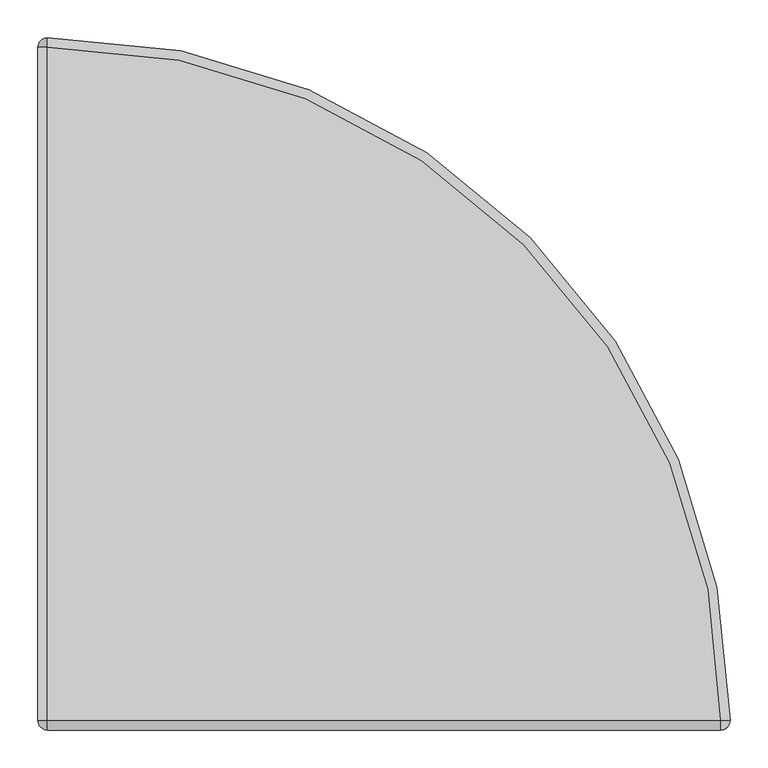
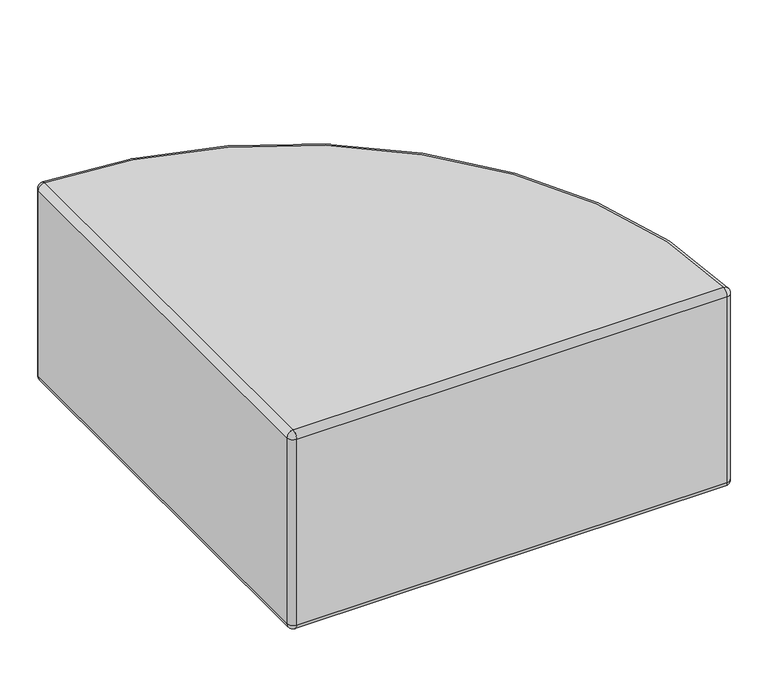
"""IFC4 building model written with IfcOpenShell, lengths in millimetres: furniture geometry, KFI Studios - Conversa - Corner Seat : KFI Studios - Conversa - Corner Seat."""

from ifc_helpers import new_model, si_unit, point, frame, origin, place, context, project, spatial, polyline, circle_curve, ellipse_curve, trimmed, source, transform, mapped, element, save
from ifc_brep_helpers import plane_surface, cylinder_surface, revolved_surface, advanced_brep


def furniture_e2d3b3b4(model_context):
    return source(origin(), model_context, "Body", "AdvancedBrep", [
        advanced_brep(
        [(-356.8604105, 365.125, 25.4), (-365.125, 365.125, 25.4), (-373.3895895, 365.125, 25.4), (-356.8604105, 365.125, 14.2843611), (-373.3895895, 365.125, 14.2843611), (-358.4623646, 365.125, 14.2843611), (-371.7876354, 365.125, 14.2843611), (-358.4623646, 365.125, 12.7064551), (-371.7876354, 365.125, 12.7064551), (-356.8609329, 365.125, 12.7064551), (-373.3890671, 365.125, 12.7064551), (-347.6758785, 365.125, 3.1950529), (-382.5741215, 365.125, 3.1950529), (-347.6758785, 365.125, 0.0), (-382.5741215, 365.125, 0.0), (-365.125, 365.125, 0.0)],
        [
            (0, 1),
            (1, 2),
            (2, 0, circle_curve(frame((-365.125, 365.125, 25.4), z_axis=(0.0, 0.0, 1.0), x_axis=(-1.0, 0.0, 0.0)), 8.2645895)),
            (0, 2, circle_curve(frame((-365.125, 365.125, 25.4), z_axis=(0.0, 0.0, 1.0), x_axis=(-1.0, 0.0, 0.0)), 8.2645895)),
            (3, 0),
            (2, 4),
            (4, 3, circle_curve(frame((-365.125, 365.125, 14.2843611), z_axis=(0.0, 0.0, 1.0), x_axis=(-1.0, 0.0, 0.0)), 8.2645895)),
            (3, 4, circle_curve(frame((-365.125, 365.125, 14.2843611), z_axis=(0.0, 0.0, 1.0), x_axis=(-1.0, 0.0, 0.0)), 8.2645895)),
            (5, 3),
            (4, 6),
            (6, 5, circle_curve(frame((-365.125, 365.125, 14.2843611), z_axis=(0.0, 0.0, 1.0), x_axis=(-1.0, 0.0, 0.0)), 6.6626354)),
            (5, 6, circle_curve(frame((-365.125, 365.125, 14.2843611), z_axis=(0.0, 0.0, 1.0), x_axis=(-1.0, 0.0, 0.0)), 6.6626354)),
            (7, 5),
            (6, 8),
            (8, 7, circle_curve(frame((-365.125, 365.125, 12.7064551), z_axis=(0.0, 0.0, 1.0), x_axis=(-1.0, 0.0, 0.0)), 6.6626354)),
            (7, 8, circle_curve(frame((-365.125, 365.125, 12.7064551), z_axis=(0.0, 0.0, 1.0), x_axis=(-1.0, 0.0, 0.0)), 6.6626354)),
            (9, 7),
            (8, 10),
            (10, 9, circle_curve(frame((-365.125, 365.125, 12.7064551), z_axis=(0.0, 0.0, 1.0), x_axis=(-1.0, 0.0, 0.0)), 8.2640671)),
            (9, 10, circle_curve(frame((-365.125, 365.125, 12.7064551), z_axis=(0.0, 0.0, 1.0), x_axis=(-1.0, 0.0, 0.0)), 8.2640671)),
            (11, 9),
            (10, 12),
            (12, 11, circle_curve(frame((-365.125, 365.125, 3.1950529), z_axis=(0.0, 0.0, 1.0), x_axis=(-1.0, 0.0, 0.0)), 17.4491215)),
            (11, 12, circle_curve(frame((-365.125, 365.125, 3.1950529), z_axis=(0.0, 0.0, 1.0), x_axis=(-1.0, 0.0, 0.0)), 17.4491215)),
            (13, 11),
            (12, 14),
            (14, 13, circle_curve(frame((-365.125, 365.125, 0.0), z_axis=(0.0, 0.0, 1.0), x_axis=(-1.0, 0.0, 0.0)), 17.4491215)),
            (13, 14, circle_curve(frame((-365.125, 365.125, 0.0), z_axis=(0.0, 0.0, 1.0), x_axis=(-1.0, 0.0, 0.0)), 17.4491215)),
            (15, 13),
            (14, 15),
        ],
        [
            plane_surface(frame((-365.125, 365.125, 25.4), z_axis=(0.0, 0.0, 1.0), x_axis=(-1.0, 0.0, 0.0))),
            cylinder_surface(frame((-365.125, 365.125, 33.820929), z_axis=(0.0, 0.0, -1.0), x_axis=(-1.0, 0.0, 0.0)), 8.2645895),
            plane_surface(frame((-365.125, 365.125, 14.2843611), z_axis=(0.0, 0.0, -1.0), x_axis=(-1.0, 0.0, 0.0))),
            cylinder_surface(frame((-365.125, 365.125, 33.820929), z_axis=(0.0, 0.0, -1.0), x_axis=(-1.0, 0.0, 0.0)), 6.6626354),
            plane_surface(frame((-365.125, 365.125, 12.7064551), z_axis=(0.0, 0.0, 1.0), x_axis=(-1.0, 0.0, 0.0))),
            revolved_surface(polyline([(-373.3890671, 365.125, 12.7064551), (-382.5741215, 365.125, 3.1950529)]), (-365.125, 365.125, 33.820929), (0.0, 0.0, -1.0)),
            cylinder_surface(frame((-365.125, 365.125, 33.820929), z_axis=(0.0, 0.0, -1.0), x_axis=(-1.0, 0.0, 0.0)), 17.4491215),
            plane_surface(frame((-365.125, 365.125, 0.0), z_axis=(0.0, 0.0, -1.0), x_axis=(-1.0, 0.0, 0.0))),
        ],
        [
            (0, [[1, 2, 3]]),
            (0, [[-2, -1, 4]]),
            (1, [[5, -3, 6, 7]]),
            (1, [[-6, -4, -5, 8]]),
            (2, [[9, -7, 10, 11]]),
            (2, [[-10, -8, -9, 12]]),
            (3, [[13, -11, 14, 15]]),
            (3, [[-14, -12, -13, 16]]),
            (4, [[17, -15, 18, 19]]),
            (4, [[-18, -16, -17, 20]]),
            (5, [[21, -19, 22, 23]]),
            (5, [[-22, -20, -21, 24]]),
            (6, [[25, -23, 26, 27]]),
            (6, [[-26, -24, -25, 28]]),
            (7, [[29, -27, 30]]),
            (7, [[-30, -28, -29]]),
        ],
    ),
        advanced_brep(
        [(356.8604105, -365.125, 25.4), (373.3895895, -365.125, 25.4), (365.125, -365.125, 25.4), (356.8604105, -365.125, 14.2843611), (373.3895895, -365.125, 14.2843611), (358.4623646, -365.125, 14.2843611), (371.7876354, -365.125, 14.2843611), (358.4623646, -365.125, 12.7064551), (371.7876354, -365.125, 12.7064551), (356.8609329, -365.125, 12.7064551), (373.3890671, -365.125, 12.7064551), (347.6758785, -365.125, 3.1950529), (382.5741215, -365.125, 3.1950529), (347.6758785, -365.125, 0.0), (382.5741215, -365.125, 0.0), (365.125, -365.125, 0.0)],
        [
            (0, 1, circle_curve(frame((365.125, -365.125, 25.4), z_axis=(0.0, 0.0, 1.0), x_axis=(1.0, 0.0, 0.0)), 8.2645895)),
            (1, 2),
            (2, 0),
            (1, 0, circle_curve(frame((365.125, -365.125, 25.4), z_axis=(0.0, 0.0, 1.0), x_axis=(1.0, 0.0, 0.0)), 8.2645895)),
            (3, 4, circle_curve(frame((365.125, -365.125, 14.2843611), z_axis=(0.0, 0.0, 1.0), x_axis=(1.0, 0.0, 0.0)), 8.2645895)),
            (4, 1),
            (0, 3),
            (4, 3, circle_curve(frame((365.125, -365.125, 14.2843611), z_axis=(0.0, 0.0, 1.0), x_axis=(1.0, 0.0, 0.0)), 8.2645895)),
            (5, 6, circle_curve(frame((365.125, -365.125, 14.2843611), z_axis=(0.0, 0.0, 1.0), x_axis=(1.0, 0.0, 0.0)), 6.6626354)),
            (6, 4),
            (3, 5),
            (6, 5, circle_curve(frame((365.125, -365.125, 14.2843611), z_axis=(0.0, 0.0, 1.0), x_axis=(1.0, 0.0, 0.0)), 6.6626354)),
            (7, 8, circle_curve(frame((365.125, -365.125, 12.7064551), z_axis=(0.0, 0.0, 1.0), x_axis=(1.0, 0.0, 0.0)), 6.6626354)),
            (8, 6),
            (5, 7),
            (8, 7, circle_curve(frame((365.125, -365.125, 12.7064551), z_axis=(0.0, 0.0, 1.0), x_axis=(1.0, 0.0, 0.0)), 6.6626354)),
            (9, 10, circle_curve(frame((365.125, -365.125, 12.7064551), z_axis=(0.0, 0.0, 1.0), x_axis=(1.0, 0.0, 0.0)), 8.2640671)),
            (10, 8),
            (7, 9),
            (10, 9, circle_curve(frame((365.125, -365.125, 12.7064551), z_axis=(0.0, 0.0, 1.0), x_axis=(1.0, 0.0, 0.0)), 8.2640671)),
            (11, 12, circle_curve(frame((365.125, -365.125, 3.1950529), z_axis=(0.0, 0.0, 1.0), x_axis=(1.0, 0.0, 0.0)), 17.4491215)),
            (12, 10),
            (9, 11),
            (12, 11, circle_curve(frame((365.125, -365.125, 3.1950529), z_axis=(0.0, 0.0, 1.0), x_axis=(1.0, 0.0, 0.0)), 17.4491215)),
            (13, 14, circle_curve(frame((365.125, -365.125, 0.0), z_axis=(0.0, 0.0, 1.0), x_axis=(1.0, 0.0, 0.0)), 17.4491215)),
            (14, 12),
            (11, 13),
            (14, 13, circle_curve(frame((365.125, -365.125, 0.0), z_axis=(0.0, 0.0, 1.0), x_axis=(1.0, 0.0, 0.0)), 17.4491215)),
            (15, 14),
            (13, 15),
        ],
        [
            plane_surface(frame((365.125, -365.125, 25.4), z_axis=(0.0, 0.0, 1.0), x_axis=(1.0, 0.0, 0.0))),
            cylinder_surface(frame((365.125, -365.125, 33.820929), z_axis=(0.0, 0.0, -1.0), x_axis=(1.0, 0.0, 0.0)), 8.2645895),
            plane_surface(frame((365.125, -365.125, 14.2843611), z_axis=(0.0, 0.0, -1.0), x_axis=(1.0, 0.0, 0.0))),
            cylinder_surface(frame((365.125, -365.125, 33.820929), z_axis=(0.0, 0.0, -1.0), x_axis=(1.0, 0.0, 0.0)), 6.6626354),
            plane_surface(frame((365.125, -365.125, 12.7064551), z_axis=(0.0, 0.0, 1.0), x_axis=(1.0, 0.0, 0.0))),
            revolved_surface(polyline([(373.3890671, -365.125, 12.7064551), (382.5741215, -365.125, 3.1950529)]), (365.125, -365.125, 33.820929), (0.0, 0.0, -1.0)),
            cylinder_surface(frame((365.125, -365.125, 33.820929), z_axis=(0.0, 0.0, -1.0), x_axis=(1.0, 0.0, 0.0)), 17.4491215),
            plane_surface(frame((365.125, -365.125, 0.0), z_axis=(0.0, 0.0, -1.0), x_axis=(1.0, 0.0, 0.0))),
        ],
        [
            (0, [[1, 2, 3]]),
            (0, [[4, -3, -2]]),
            (1, [[5, 6, -1, 7]]),
            (1, [[8, -7, -4, -6]]),
            (2, [[9, 10, -5, 11]]),
            (2, [[12, -11, -8, -10]]),
            (3, [[13, 14, -9, 15]]),
            (3, [[16, -15, -12, -14]]),
            (4, [[17, 18, -13, 19]]),
            (4, [[20, -19, -16, -18]]),
            (5, [[21, 22, -17, 23]]),
            (5, [[24, -23, -20, -22]]),
            (6, [[25, 26, -21, 27]]),
            (6, [[28, -27, -24, -26]]),
            (7, [[29, -25, 30]]),
            (7, [[-30, -28, -29]]),
        ],
    ),
        advanced_brep(
        [(-356.8604105, -365.125, 25.4), (-365.125, -365.125, 25.4), (-373.3895895, -365.125, 25.4), (-356.8604105, -365.125, 14.2843611), (-373.3895895, -365.125, 14.2843611), (-358.4623646, -365.125, 14.2843611), (-371.7876354, -365.125, 14.2843611), (-358.4623646, -365.125, 12.7064551), (-371.7876354, -365.125, 12.7064551), (-356.8609329, -365.125, 12.7064551), (-373.3890671, -365.125, 12.7064551), (-347.6758785, -365.125, 3.1950529), (-382.5741215, -365.125, 3.1950529), (-347.6758785, -365.125, 0.0), (-382.5741215, -365.125, 0.0), (-365.125, -365.125, 0.0)],
        [
            (0, 1),
            (1, 2),
            (2, 0, circle_curve(frame((-365.125, -365.125, 25.4), z_axis=(0.0, 0.0, 1.0), x_axis=(-1.0, 0.0, 0.0)), 8.2645895)),
            (0, 2, circle_curve(frame((-365.125, -365.125, 25.4), z_axis=(0.0, 0.0, 1.0), x_axis=(-1.0, 0.0, 0.0)), 8.2645895)),
            (3, 0),
            (2, 4),
            (4, 3, circle_curve(frame((-365.125, -365.125, 14.2843611), z_axis=(0.0, 0.0, 1.0), x_axis=(-1.0, 0.0, 0.0)), 8.2645895)),
            (3, 4, circle_curve(frame((-365.125, -365.125, 14.2843611), z_axis=(0.0, 0.0, 1.0), x_axis=(-1.0, 0.0, 0.0)), 8.2645895)),
            (5, 3),
            (4, 6),
            (6, 5, circle_curve(frame((-365.125, -365.125, 14.2843611), z_axis=(0.0, 0.0, 1.0), x_axis=(-1.0, 0.0, 0.0)), 6.6626354)),
            (5, 6, circle_curve(frame((-365.125, -365.125, 14.2843611), z_axis=(0.0, 0.0, 1.0), x_axis=(-1.0, 0.0, 0.0)), 6.6626354)),
            (7, 5),
            (6, 8),
            (8, 7, circle_curve(frame((-365.125, -365.125, 12.7064551), z_axis=(0.0, 0.0, 1.0), x_axis=(-1.0, 0.0, 0.0)), 6.6626354)),
            (7, 8, circle_curve(frame((-365.125, -365.125, 12.7064551), z_axis=(0.0, 0.0, 1.0), x_axis=(-1.0, 0.0, 0.0)), 6.6626354)),
            (9, 7),
            (8, 10),
            (10, 9, circle_curve(frame((-365.125, -365.125, 12.7064551), z_axis=(0.0, 0.0, 1.0), x_axis=(-1.0, 0.0, 0.0)), 8.2640671)),
            (9, 10, circle_curve(frame((-365.125, -365.125, 12.7064551), z_axis=(0.0, 0.0, 1.0), x_axis=(-1.0, 0.0, 0.0)), 8.2640671)),
            (11, 9),
            (10, 12),
            (12, 11, circle_curve(frame((-365.125, -365.125, 3.1950529), z_axis=(0.0, 0.0, 1.0), x_axis=(-1.0, 0.0, 0.0)), 17.4491215)),
            (11, 12, circle_curve(frame((-365.125, -365.125, 3.1950529), z_axis=(0.0, 0.0, 1.0), x_axis=(-1.0, 0.0, 0.0)), 17.4491215)),
            (13, 11),
            (12, 14),
            (14, 13, circle_curve(frame((-365.125, -365.125, 0.0), z_axis=(0.0, 0.0, 1.0), x_axis=(-1.0, 0.0, 0.0)), 17.4491215)),
            (13, 14, circle_curve(frame((-365.125, -365.125, 0.0), z_axis=(0.0, 0.0, 1.0), x_axis=(-1.0, 0.0, 0.0)), 17.4491215)),
            (15, 13),
            (14, 15),
        ],
        [
            plane_surface(frame((-365.125, -365.125, 25.4), z_axis=(0.0, 0.0, 1.0), x_axis=(-1.0, 0.0, 0.0))),
            cylinder_surface(frame((-365.125, -365.125, 33.820929), z_axis=(0.0, 0.0, -1.0), x_axis=(-1.0, 0.0, 0.0)), 8.2645895),
            plane_surface(frame((-365.125, -365.125, 14.2843611), z_axis=(0.0, 0.0, -1.0), x_axis=(-1.0, 0.0, 0.0))),
            cylinder_surface(frame((-365.125, -365.125, 33.820929), z_axis=(0.0, 0.0, -1.0), x_axis=(-1.0, 0.0, 0.0)), 6.6626354),
            plane_surface(frame((-365.125, -365.125, 12.7064551), z_axis=(0.0, 0.0, 1.0), x_axis=(-1.0, 0.0, 0.0))),
            revolved_surface(polyline([(-373.3890671, -365.125, 12.7064551), (-382.5741215, -365.125, 3.1950529)]), (-365.125, -365.125, 33.820929), (0.0, 0.0, -1.0)),
            cylinder_surface(frame((-365.125, -365.125, 33.820929), z_axis=(0.0, 0.0, -1.0), x_axis=(-1.0, 0.0, 0.0)), 17.4491215),
            plane_surface(frame((-365.125, -365.125, 0.0), z_axis=(0.0, 0.0, -1.0), x_axis=(-1.0, 0.0, 0.0))),
        ],
        [
            (0, [[1, 2, 3]]),
            (0, [[-2, -1, 4]]),
            (1, [[5, -3, 6, 7]]),
            (1, [[-6, -4, -5, 8]]),
            (2, [[9, -7, 10, 11]]),
            (2, [[-10, -8, -9, 12]]),
            (3, [[13, -11, 14, 15]]),
            (3, [[-14, -12, -13, 16]]),
            (4, [[17, -15, 18, 19]]),
            (4, [[-18, -16, -17, 20]]),
            (5, [[21, -19, 22, 23]]),
            (5, [[-22, -20, -21, 24]]),
            (6, [[25, -23, 26, 27]]),
            (6, [[-26, -24, -25, 28]]),
            (7, [[29, -27, 30]]),
            (7, [[-30, -28, -29]]),
        ],
    ),
        advanced_brep(
        [(-444.5, 444.5, 457.2), (-444.5, -444.5, 457.2), (444.5, -444.5, 457.2), (457.2, -444.5, 444.5), (-444.5, 457.2, 444.5), (457.2, -444.5, 38.1), (-444.5, 457.2, 38.1), (444.5, -444.5, 25.4), (-444.5, 444.5, 25.4), (-444.5, -444.5, 25.4), (-457.2, -444.5, 444.5), (-457.2, 444.5, 444.5), (-457.2, 444.5, 38.1), (-457.2, -444.5, 38.1), (444.5, -457.2, 444.5), (-444.5, -457.2, 444.5), (-444.5, -457.2, 38.1), (444.5, -457.2, 38.1)],
        [
            (0, 1),
            (1, 2),
            (2, 0, circle_curve(frame((-444.5, -444.5, 457.2), z_axis=(0.0, 0.0, 1.0), x_axis=(1.0, 0.0, 0.0)), 889.0)),
            (2, 3, circle_curve(frame((444.5, -444.5, 444.5), z_axis=(0.0, 1.0, 0.0), x_axis=(-1.0, 0.0, 0.0)), 12.7)),
            (3, 4, circle_curve(frame((-444.5, -444.5, 444.5), z_axis=(0.0, 0.0, 1.0), x_axis=(1.0, 0.0, 0.0)), 901.7)),
            (4, 0, circle_curve(frame((-444.5, 444.5, 444.5), z_axis=(1.0, 0.0, 0.0), x_axis=(0.0, -1.0, 0.0)), 12.7)),
            (3, 5),
            (5, 6, circle_curve(frame((-444.5, -444.5, 38.1), z_axis=(0.0, 0.0, 1.0), x_axis=(1.0, 0.0, 0.0)), 901.7)),
            (6, 4),
            (5, 7, circle_curve(frame((444.5, -444.5, 38.1), z_axis=(0.0, 1.0, 0.0), x_axis=(-1.0, 0.0, 0.0)), 12.7)),
            (7, 8, circle_curve(frame((-444.5, -444.5, 25.4), z_axis=(0.0, 0.0, 1.0), x_axis=(1.0, 0.0, 0.0)), 889.0)),
            (8, 6, circle_curve(frame((-444.5, 444.5, 38.1), z_axis=(1.0, 0.0, 0.0), x_axis=(0.0, -1.0, 0.0)), 12.7)),
            (7, 9),
            (9, 8),
            (10, 1, circle_curve(frame((-444.5, -444.5, 444.5), z_axis=(0.0, 1.0, 0.0), x_axis=(-1.0, 0.0, 0.0)), 12.7)),
            (0, 11, circle_curve(frame((-444.5, 444.5, 444.5), z_axis=(0.0, -1.0, 0.0), x_axis=(-1.0, 0.0, 0.0)), 12.7)),
            (11, 10),
            (12, 8, circle_curve(frame((-444.5, 444.5, 38.1), z_axis=(0.0, -1.0, 0.0), x_axis=(-1.0, 0.0, 0.0)), 12.7)),
            (9, 13, circle_curve(frame((-444.5, -444.5, 38.1), z_axis=(0.0, 1.0, 0.0), x_axis=(-1.0, 0.0, 0.0)), 12.7)),
            (13, 12),
            (11, 12),
            (13, 10),
            (14, 2, circle_curve(frame((444.5, -444.5, 444.5), z_axis=(-1.0, 0.0, 0.0), x_axis=(0.0, -1.0, 0.0)), 12.7)),
            (1, 15, circle_curve(frame((-444.5, -444.5, 444.5), z_axis=(1.0, 0.0, 0.0), x_axis=(0.0, -1.0, 0.0)), 12.7)),
            (15, 14),
            (16, 9, circle_curve(frame((-444.5, -444.5, 38.1), z_axis=(1.0, 0.0, 0.0), x_axis=(0.0, -1.0, 0.0)), 12.7)),
            (7, 17, circle_curve(frame((444.5, -444.5, 38.1), z_axis=(-1.0, 0.0, 0.0), x_axis=(0.0, -1.0, 0.0)), 12.7)),
            (17, 16),
            (15, 16),
            (17, 14),
            (12, 6, circle_curve(frame((-444.5, 444.5, 38.1), z_axis=(0.0, 0.0, -1.0), x_axis=(-1.0, 0.0, 0.0)), 12.7)),
            (4, 11, circle_curve(frame((-444.5, 444.5, 444.5), z_axis=(0.0, 0.0, 1.0), x_axis=(-1.0, 0.0, 0.0)), 12.7)),
            (5, 17, circle_curve(frame((444.5, -444.5, 38.1), z_axis=(0.0, 0.0, -1.0), x_axis=(0.0, -1.0, 0.0)), 12.7)),
            (14, 3, circle_curve(frame((444.5, -444.5, 444.5), z_axis=(0.0, 0.0, 1.0), x_axis=(0.0, -1.0, 0.0)), 12.7)),
            (16, 13, circle_curve(frame((-444.5, -444.5, 38.1), z_axis=(0.0, 0.0, -1.0), x_axis=(0.0, -1.0, 0.0)), 12.7)),
            (10, 15, circle_curve(frame((-444.5, -444.5, 444.5), z_axis=(0.0, 0.0, 1.0), x_axis=(0.0, -1.0, 0.0)), 12.7)),
        ],
        [
            plane_surface(frame((-444.5, -444.5, 457.2), z_axis=(0.0, 0.0, 1.0), x_axis=(1.0, 0.0, 0.0))),
            revolved_surface(trimmed(ellipse_curve(frame((444.5, -444.5, 444.5), z_axis=(0.0, 1.0, 0.0), x_axis=(-1.0, 0.0, 0.0)), 12.7, 12.7), [point((444.5, -444.5, 457.2))], [point((457.2, -444.5, 444.5))], True, "CARTESIAN"), (-444.5, -444.5, 457.2), (0.0, 0.0, -1.0)),
            cylinder_surface(frame((-444.5, -444.5, 457.2), z_axis=(0.0, 0.0, -1.0), x_axis=(1.0, 0.0, 0.0)), 901.7),
            revolved_surface(trimmed(ellipse_curve(frame((444.5, -444.5, 38.1), z_axis=(0.0, 1.0, 0.0), x_axis=(-1.0, 0.0, 0.0)), 12.7, 12.7), [point((457.2, -444.5, 38.1))], [point((444.5, -444.5, 25.4))], True, "CARTESIAN"), (-444.5, -444.5, 457.2), (0.0, 0.0, -1.0)),
            plane_surface(frame((-444.5, -444.5, 25.4), z_axis=(0.0, 0.0, -1.0), x_axis=(1.0, 0.0, 0.0))),
            cylinder_surface(frame((-444.5, 444.5, 444.5), z_axis=(0.0, -1.0, 0.0), x_axis=(-1.0, 0.0, 0.0)), 12.7),
            cylinder_surface(frame((-444.5, 444.5, 38.1), z_axis=(0.0, -1.0, 0.0), x_axis=(-1.0, 0.0, 0.0)), 12.7),
            plane_surface(frame((-457.2, -444.5, 38.1), z_axis=(-1.0, 0.0, 0.0), x_axis=(0.0, 1.0, 0.0))),
            cylinder_surface(frame((444.5, -444.5, 444.5), z_axis=(-1.0, 0.0, 0.0), x_axis=(0.0, -1.0, 0.0)), 12.7),
            cylinder_surface(frame((444.5, -444.5, 38.1), z_axis=(-1.0, 0.0, 0.0), x_axis=(0.0, -1.0, 0.0)), 12.7),
            plane_surface(frame((-444.5, -457.2, 444.5), z_axis=(0.0, -1.0, 0.0), x_axis=(1.0, 0.0, 0.0))),
            revolved_surface(trimmed(ellipse_curve(frame((-444.5, 444.5, 38.1), z_axis=(0.0, 1.0, 0.0), x_axis=(-1.0, 0.0, 0.0)), 12.7, 12.7), [point((-444.5, 444.5, 25.4))], [point((-457.2, 444.5, 38.1))], True, "CARTESIAN"), (-444.5, 444.5, 457.2), (0.0, 0.0, 1.0)),
            revolved_surface(trimmed(ellipse_curve(frame((-444.5, 444.5, 444.5), z_axis=(0.0, 1.0, 0.0), x_axis=(-1.0, 0.0, 0.0)), 12.7, 12.7), [point((-457.2, 444.5, 444.5))], [point((-444.5, 444.5, 457.2))], True, "CARTESIAN"), (-444.5, 444.5, 457.2), (0.0, 0.0, 1.0)),
            cylinder_surface(frame((-444.5, 444.5, 457.2), z_axis=(0.0, 0.0, 1.0), x_axis=(-1.0, 0.0, 0.0)), 12.7),
            revolved_surface(trimmed(ellipse_curve(frame((444.5, -444.5, 38.1), z_axis=(1.0, 0.0, 0.0), x_axis=(0.0, -1.0, 0.0)), 12.7, 12.7), [point((444.5, -457.2, 38.1))], [point((444.5, -444.5, 25.4))], True, "CARTESIAN"), (444.5, -444.5, 457.2), (0.0, 0.0, -1.0)),
            revolved_surface(trimmed(ellipse_curve(frame((444.5, -444.5, 444.5), z_axis=(1.0, 0.0, 0.0), x_axis=(0.0, -1.0, 0.0)), 12.7, 12.7), [point((444.5, -444.5, 457.2))], [point((444.5, -457.2, 444.5))], True, "CARTESIAN"), (444.5, -444.5, 457.2), (0.0, 0.0, -1.0)),
            cylinder_surface(frame((444.5, -444.5, 457.2), z_axis=(0.0, 0.0, -1.0), x_axis=(0.0, -1.0, 0.0)), 12.7),
            revolved_surface(trimmed(ellipse_curve(frame((-444.5, -444.5, 38.1), z_axis=(-1.0, 0.0, 0.0), x_axis=(0.0, -1.0, 0.0)), 12.7, 12.7), [point((-444.5, -444.5, 25.4))], [point((-444.5, -457.2, 38.1))], True, "CARTESIAN"), (-444.5, -444.5, 457.2), (0.0, 0.0, 1.0)),
            revolved_surface(trimmed(ellipse_curve(frame((-444.5, -444.5, 444.5), z_axis=(-1.0, 0.0, 0.0), x_axis=(0.0, -1.0, 0.0)), 12.7, 12.7), [point((-444.5, -457.2, 444.5))], [point((-444.5, -444.5, 457.2))], True, "CARTESIAN"), (-444.5, -444.5, 457.2), (0.0, 0.0, 1.0)),
            cylinder_surface(frame((-444.5, -444.5, 457.2), z_axis=(0.0, 0.0, 1.0), x_axis=(0.0, -1.0, 0.0)), 12.7),
        ],
        [
            (0, [[1, 2, 3]]),
            (1, [[4, 5, 6, -3]]),
            (2, [[7, 8, 9, -5]]),
            (3, [[10, 11, 12, -8]]),
            (4, [[13, 14, -11]]),
            (5, [[15, -1, 16, 17]]),
            (6, [[18, -14, 19, 20]]),
            (7, [[21, -20, 22, -17]]),
            (8, [[23, -2, 24, 25]]),
            (9, [[26, -13, 27, 28]]),
            (10, [[29, -28, 30, -25]]),
            (11, [[-12, -18, 31]]),
            (12, [[-16, -6, 32]]),
            (13, [[-21, -32, -9, -31]]),
            (14, [[-27, -10, 33]]),
            (15, [[-4, -23, 34]]),
            (16, [[-7, -34, -30, -33]]),
            (17, [[-19, -26, 35]]),
            (18, [[-24, -15, 36]]),
            (19, [[-29, -36, -22, -35]]),
        ],
    ),
    ])


if __name__ == "__main__":
    model = new_model("IFC4")
    model_context = context("Model", 3, world=origin())
    ifc_project = project(units=[si_unit("LENGTHUNIT", "METRE", prefix="MILLI")], contexts=[model_context])
    site = spatial("IfcSite", under=ifc_project)
    building = spatial("IfcBuilding", under=site)
    placement = place(None, origin())
    furniture_shape = furniture_e2d3b3b4(model_context)
    element("IfcFurniture", 1, ObjectType="KFI Studios - Conversa - Corner Seat : KFI Studios - Conversa - Corner Seat", at=placement, inside=building, context=model_context, shape_type="MappedRepresentation", body=[
        mapped(furniture_shape, transform((0.0, 0.0, 0.0), x_axis=(1.0, 0.0, 0.0), y_axis=(0.0, 1.0, 0.0), z_axis=(0.0, 0.0, 1.0))),
    ])
    save(model, "model.ifc")
